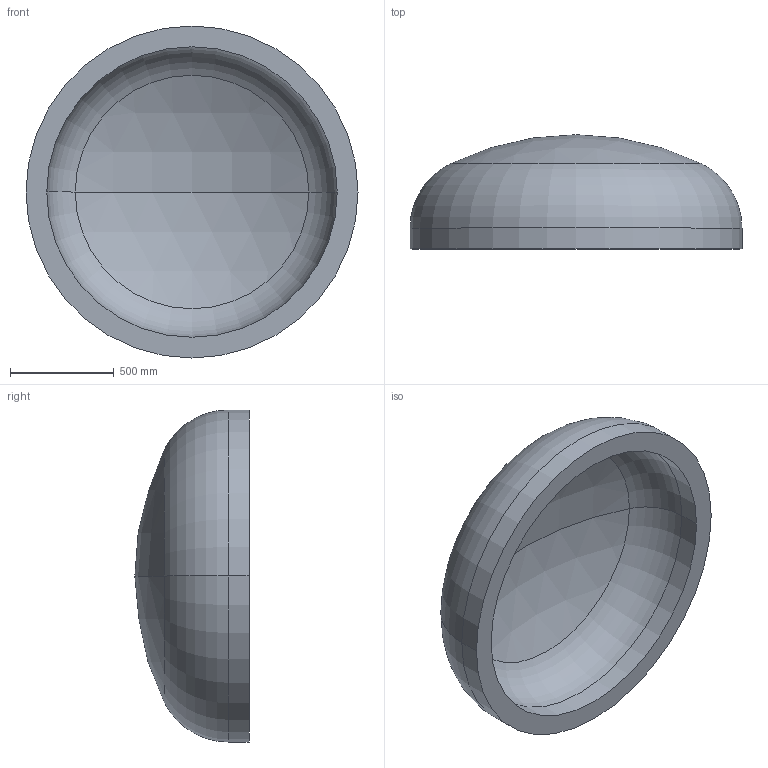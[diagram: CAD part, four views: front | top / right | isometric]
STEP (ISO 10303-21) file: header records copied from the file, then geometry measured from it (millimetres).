
FILE_DESCRIPTION (( 'STEP AP203' ), '1' );
FILE_NAME ('DIN 28013 Korbbogenform_-_Boden DIN 28013 - 1600 x 100 - I - s=100.step', '2016-07-01T11:29:43', ( '' ), ( '' ), 'SwSTEP 2.0', 'SolidWorks 2013', '' );
FILE_SCHEMA (( 'CONFIG_CONTROL_DESIGN' ));
Length unit declared in the file: millimetre
Products named in the file (1): DIN 28013 Korbbogenform_-_Boden DIN 28013 - 1600 x 100 - I - s=100
Bounding box: 1600 x 550.38 x 1600 mm (x, y, z)
Volume: 304005669.2 mm3; surface area: 6572294.8 mm2
Topology: 1 solids, 1 shells, 13 faces, 24 edges, 14 vertices
Faces by surface type: torus 4, cylinder 4, sphere 4, plane 1
Entity records: 407 total; most frequent: DIRECTION 72, CARTESIAN_POINT 52, ORIENTED_EDGE 48, AXIS2_PLACEMENT_3D 34, EDGE_CURVE 24, CIRCLE 20, EDGE_LOOP 14, VERTEX_POINT 14
